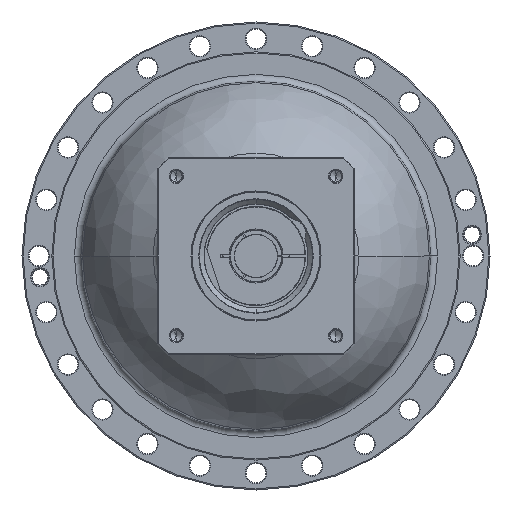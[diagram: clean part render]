
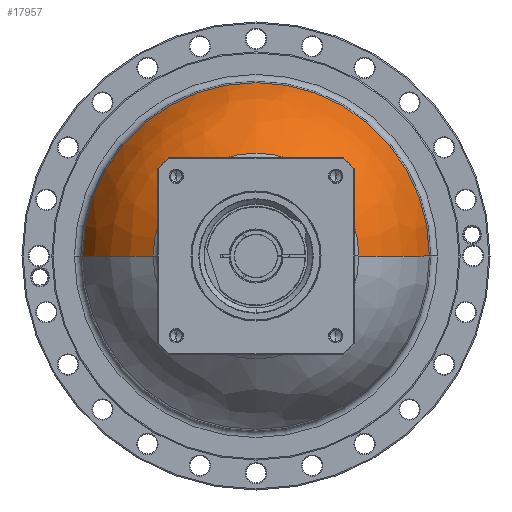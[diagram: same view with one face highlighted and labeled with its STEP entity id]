
A CAD part, left-side view. The second image highlights one B-rep face of the part: STEP entity #17957.
In plain terms, the highlighted free-form (B-spline) face has degree [3, 3] with [7, 4] control points.
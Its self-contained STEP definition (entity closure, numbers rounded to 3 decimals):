
#17465=CARTESIAN_POINT('',(-12.551,0.,0.));
#17466=DIRECTION('',(-1.,0.,0.));
#17467=DIRECTION('',(0.,-1.,0.));
#17468=AXIS2_PLACEMENT_3D('',#17465,#17466,#17467);
#17470=CARTESIAN_POINT('',(-92.085,0.,0.));
#17471=DIRECTION('',(1.,0.,0.));
#17472=DIRECTION('',(0.,1.,0.));
#17473=AXIS2_PLACEMENT_3D('',#17470,#17471,#17472);
#17480=CARTESIAN_POINT('',(-139.573,11.429,0.));
#17481=DIRECTION('',(0.,0.,-1.));
#17482=DIRECTION('',(0.317,0.949,0.));
#17483=AXIS2_PLACEMENT_3D('',#17480,#17481,#17482);
#17490=CARTESIAN_POINT('',(-139.573,-11.429,0.));
#17491=DIRECTION('',(0.,0.,1.));
#17492=DIRECTION('',(0.317,-0.949,0.));
#17493=AXIS2_PLACEMENT_3D('',#17490,#17491,#17492);
#17727=CARTESIAN_POINT('',(-92.085,153.714,
0.));
#17728=CARTESIAN_POINT('',(-92.085,-153.714,0.));
#17729=VERTEX_POINT('',#17727);
#17730=VERTEX_POINT('',#17728);
#17739=CARTESIAN_POINT('',(-12.551,91.213,
0.));
#17740=CARTESIAN_POINT('',(-12.551,-91.213,
0.));
#17741=VERTEX_POINT('',#17739);
#17742=VERTEX_POINT('',#17740);
#17919=CARTESIAN_POINT('',(-94.047,154.049,
-9.692));
#17920=CARTESIAN_POINT('',(-59.219,142.978,
-8.995));
#17921=CARTESIAN_POINT('',(-30.479,120.437,
-7.577));
#17922=CARTESIAN_POINT('',(-11.465,89.282,
-5.617));
#17923=CARTESIAN_POINT('',(-94.047,160.014,
85.11));
#17924=CARTESIAN_POINT('',(-59.219,148.513,
78.993));
#17925=CARTESIAN_POINT('',(-30.479,125.1,
66.54));
#17926=CARTESIAN_POINT('',(-11.465,92.738,
49.327));
#17927=CARTESIAN_POINT('',(-94.047,94.989,
154.354));
#17928=CARTESIAN_POINT('',(-59.219,88.162,
143.26));
#17929=CARTESIAN_POINT('',(-30.479,74.263,
120.675));
#17930=CARTESIAN_POINT('',(-11.465,55.052,
89.458));
#17931=CARTESIAN_POINT('',(-94.047,0.,
154.354));
#17932=CARTESIAN_POINT('',(-59.219,0.,
143.26));
#17933=CARTESIAN_POINT('',(-30.479,0.,120.675));
#17934=CARTESIAN_POINT('',(-11.465,0.,
89.458));
#17935=CARTESIAN_POINT('',(-94.047,-94.989,
154.354));
#17936=CARTESIAN_POINT('',(-59.219,-88.162,
143.26));
#17937=CARTESIAN_POINT('',(-30.479,-74.263,
120.675));
#17938=CARTESIAN_POINT('',(-11.465,-55.052,
89.458));
#17939=CARTESIAN_POINT('',(-94.047,-160.014,
85.11));
#17940=CARTESIAN_POINT('',(-59.219,-148.513,
78.993));
#17941=CARTESIAN_POINT('',(-30.479,-125.1,
66.54));
#17942=CARTESIAN_POINT('',(-11.465,-92.738,
49.327));
#17943=CARTESIAN_POINT('',(-94.047,-154.049,
-9.692));
#17944=CARTESIAN_POINT('',(-59.219,-142.978,
-8.995));
#17945=CARTESIAN_POINT('',(-30.479,-120.437,
-7.577));
#17946=CARTESIAN_POINT('',(-11.465,-89.282,
-5.617));
#17947=(BOUNDED_SURFACE()B_SPLINE_SURFACE(3,3,((#17919,#17920,#17921,#17922),(
#17923,#17924,#17925,#17926),(#17927,#17928,#17929,#17930),(#17931,#17932,
#17933,#17934),(#17935,#17936,#17937,#17938),(#17939,#17940,#17941,#17942),(
#17943,#17944,#17945,#17946)),.UNSPECIFIED.,.F.,.F.,.F.)B_SPLINE_SURFACE_WITH_KNOTS((4,3,4),(4,4),(0.,1.,2.),(0.,1.),.UNSPECIFIED.)GEOMETRIC_REPRESENTATION_ITEM()RATIONAL_B_SPLINE_SURFACE(((1.226,1.174,
1.174,1.226),(0.968,0.927,
0.927,0.968),(0.968,0.927,
0.927,0.968),(1.226,1.174,
1.174,1.226),(0.968,0.927,
0.927,0.968),(0.968,0.927,
0.927,0.968),(1.226,1.174,
1.174,1.226)))REPRESENTATION_ITEM('')SURFACE());
#17948=ORIENTED_EDGE('',*,*,#17913,.F.);
#17950=ORIENTED_EDGE('',*,*,#17949,.F.);
#17952=ORIENTED_EDGE('',*,*,#17951,.F.);
#17954=ORIENTED_EDGE('',*,*,#17953,.T.);
#17955=EDGE_LOOP('',(#17948,#17950,#17952,#17954));
#17956=FACE_OUTER_BOUND('',#17955,.F.);
#17957=ADVANCED_FACE('',(#17956),#17947,.T.);
#17469=CIRCLE('',#17468,91.213);
#17474=CIRCLE('',#17473,153.714);
#17484=CIRCLE('',#17483,150.);
#17494=CIRCLE('',#17493,150.);
#17913=EDGE_CURVE('',#17742,#17741,#17469,.T.);
#17949=EDGE_CURVE('',#17730,#17742,#17494,.T.);
#17951=EDGE_CURVE('',#17729,#17730,#17474,.T.);
#17953=EDGE_CURVE('',#17729,#17741,#17484,.T.);
